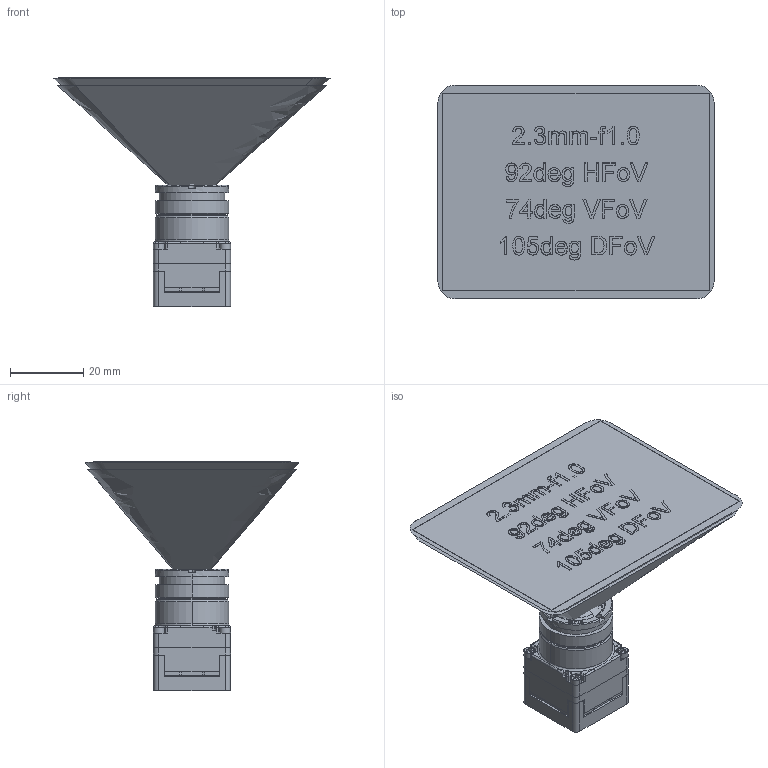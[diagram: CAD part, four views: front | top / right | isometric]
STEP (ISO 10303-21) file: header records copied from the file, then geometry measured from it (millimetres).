
FILE_DESCRIPTION (( 'STEP AP214' ), '1' );
FILE_NAME ('Boson 320, 2.3mm-f1.0, 92deg HFoV 9Hz.STEP', '2017-10-06T15:02:42', ( '' ), ( '' ), 'SwSTEP 2.0', 'SolidWorks 2017', '' );
FILE_SCHEMA (( 'AUTOMOTIVE_DESIGN' ));
Length unit declared in the file: millimetre
Products named in the file (8): PCBA Boson Main; Boson Frame, Main Board; Sensor Module, Boson 320; Boson 320, 2.3mm-f1.0, 92deg HFoV 9Hz; Optical Area 2.3mm-f1.0, Boson 320; Lens Assy, 2.3mm-f1.0; Screw SHC, M-1.6 x 0.35x10mm L; Lens Holder, M18x0.5-Boson 320
Assembly tree (10 placements, depth 2):
  Boson 320, 2.3mm-f1.0, 92deg HFoV 9Hz
    Sensor Module, Boson 320
    Boson Frame, Main Board
    PCBA Boson Main
    Lens Holder, M18x0.5-Boson 320
    Screw SHC, M-1.6 x 0.35x10mm L  x4
    Lens Assy, 2.3mm-f1.0
    Optical Area 2.3mm-f1.0, Boson 320
Bounding box: 75.13 x 58.21 x 62.34 mm (x, y, z)
Volume: 59885.6 mm3; surface area: 21356 mm2
Topology: 15 solids, 15 shells, 3210 faces, 8764 edges, 5765 vertices
Faces by surface type: plane 1906, cylinder 666, bspline 537, cone 83, torus 18
Entity records: 161972 total; most frequent: CARTESIAN_POINT 50515, ORIENTED_EDGE 17146, DIRECTION 13935, EDGE_CURVE 8573, VECTOR 5779, LINE 5779, VERTEX_POINT 5666, AXIS2_PLACEMENT_3D 4078
